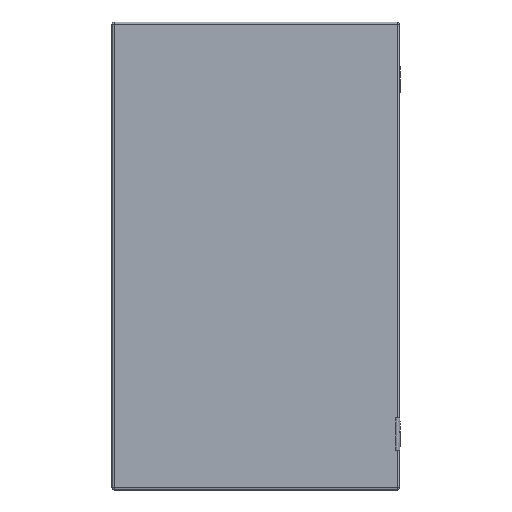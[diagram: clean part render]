
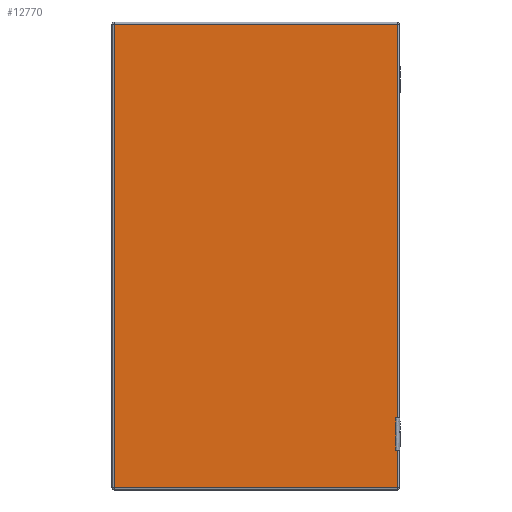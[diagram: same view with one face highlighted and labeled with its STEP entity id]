
A CAD part, front view. The second image highlights one B-rep face of the part: STEP entity #12770.
In plain terms, the highlighted free-form (B-spline) face has degree [1, 1] with [2, 2] control points.
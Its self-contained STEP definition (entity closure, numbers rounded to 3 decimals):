
#8380 = CARTESIAN_POINT ('', (303., 729.6, 120.572));
#8390 = VERTEX_POINT ('', #8380);
#8730 = CARTESIAN_POINT ('', (52., 729.6, 120.572));
#8740 = VERTEX_POINT ('', #8730);
#8810 = CARTESIAN_POINT ('', (52., 729.6, 120.572));
#8820 = CARTESIAN_POINT ('', (303., 729.6, 120.572));
#8830 = (
   BOUNDED_CURVE ()
   B_SPLINE_CURVE (1, (#8810, #8820), .UNSPECIFIED., .F., .U.)
   B_SPLINE_CURVE_WITH_KNOTS ((2, 2), (0., 251.), .UNSPECIFIED.)
   CURVE ()
   GEOMETRIC_REPRESENTATION_ITEM ()
   RATIONAL_B_SPLINE_CURVE ((1., 1.))
   REPRESENTATION_ITEM ('')
);
#8840 = EDGE_CURVE ('', #8740, #8390, #8830, .T.);
#9320 = CARTESIAN_POINT ('', (52., 729.6, -290.428));
#9330 = VERTEX_POINT ('', #9320);
#9400 = CARTESIAN_POINT ('', (52., 729.6, -290.428));
#9410 = CARTESIAN_POINT ('', (52., 729.6, 120.572));
#9420 = (
   BOUNDED_CURVE ()
   B_SPLINE_CURVE (1, (#9400, #9410), .UNSPECIFIED., .F., .U.)
   B_SPLINE_CURVE_WITH_KNOTS ((2, 2), (0., 411.), .UNSPECIFIED.)
   CURVE ()
   GEOMETRIC_REPRESENTATION_ITEM ()
   RATIONAL_B_SPLINE_CURVE ((1., 1.))
   REPRESENTATION_ITEM ('')
);
#9430 = EDGE_CURVE ('', #9330, #8740, #9420, .T.);
#9910 = CARTESIAN_POINT ('', (303., 729.6, -290.428));
#9920 = VERTEX_POINT ('', #9910);
#9990 = CARTESIAN_POINT ('', (303., 729.6, -290.428));
#10000 = CARTESIAN_POINT ('', (52., 729.6, -290.428));
#10010 = (
   BOUNDED_CURVE ()
   B_SPLINE_CURVE (1, (#9990, #10000), .UNSPECIFIED., .F., .U.)
   B_SPLINE_CURVE_WITH_KNOTS ((2, 2), (0., 251.), .UNSPECIFIED.)
   CURVE ()
   GEOMETRIC_REPRESENTATION_ITEM ()
   RATIONAL_B_SPLINE_CURVE ((1., 1.))
   REPRESENTATION_ITEM ('')
);
#10020 = EDGE_CURVE ('', #9920, #9330, #10010, .T.);
#12620 = ORIENTED_EDGE ('', *, *, #9430, .F.);
#12630 = ORIENTED_EDGE ('', *, *, #10020, .F.);
#12640 = CARTESIAN_POINT ('', (303., 729.6, 120.572));
#12650 = CARTESIAN_POINT ('', (303., 729.6, -290.428));
#12660 = (
   BOUNDED_CURVE ()
   B_SPLINE_CURVE (1, (#12640, #12650), .UNSPECIFIED., .F., .U.)
   B_SPLINE_CURVE_WITH_KNOTS ((2, 2), (0., 411.), .UNSPECIFIED.)
   CURVE ()
   GEOMETRIC_REPRESENTATION_ITEM ()
   RATIONAL_B_SPLINE_CURVE ((1., 1.))
   REPRESENTATION_ITEM ('')
);
#12670 = EDGE_CURVE ('', #8390, #9920, #12660, .T.);
#12680 = ORIENTED_EDGE ('', *, *, #12670, .F.);
#12690 = ORIENTED_EDGE ('', *, *, #8840, .F.);
#12700 = EDGE_LOOP ('', (#12620, #12630, #12680, #12690));
#12710 = FACE_OUTER_BOUND ('', #12700, .T.);
#12720 = CARTESIAN_POINT ('', (-333.937, 729.6, -596.366));
#12730 = CARTESIAN_POINT ('', (-333.937, 729.6, 426.509));
#12740 = CARTESIAN_POINT ('', (688.937, 729.6, -596.366));
#12750 = CARTESIAN_POINT ('', (688.937, 729.6, 426.509));
#12760 = B_SPLINE_SURFACE_WITH_KNOTS ('', 1, 1, ((#12720, #12730), (#12740, #12750)), .UNSPECIFIED., .F., .F., .U., (2, 2), (2, 2), (0., 1.), (0., 1.), .UNSPECIFIED.);
#12770 = ADVANCED_FACE ('', (#12710), #12760, .T.);
